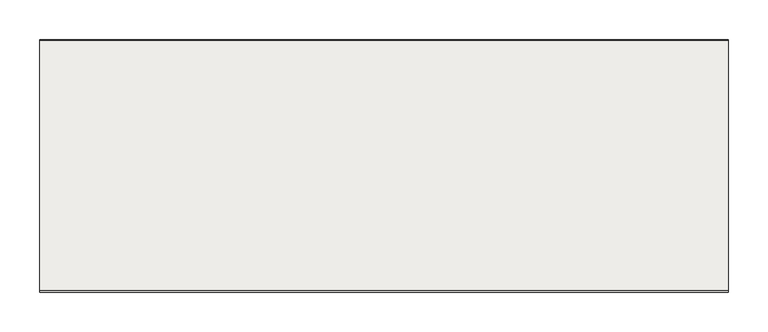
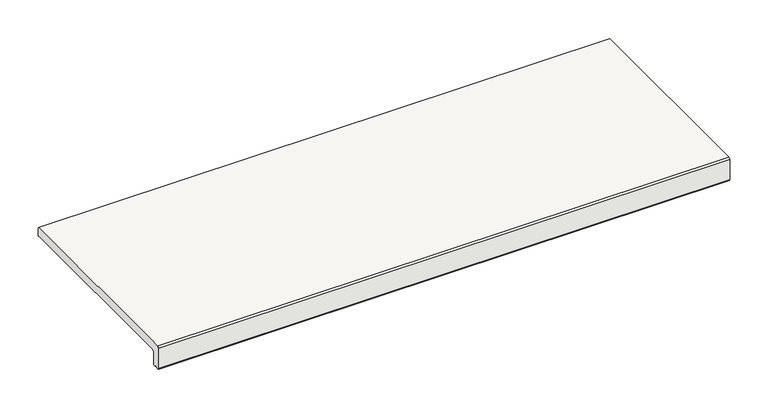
"""IFC4 building model written with IfcOpenShell, lengths in millimetres: slab geometry, ROSA GRES_L62 : Pieza L62_Tao_Beige_Anti-Slip."""

from ifc_helpers import new_model, si_unit, point, frame, frame_2d, origin, place, context, project, spatial, polyline, circle_curve, trimmed, segment, composite_curve, outline, extrude, source, transform, mapped, element, save


def slab_fb81437d(model_context):
    return source(origin(), model_context, "Body", "SweptSolid", [
        extrude(outline(composite_curve([segment(polyline([(12.1001991, -37.0), (9.4054777, -37.0)]), True, "CONTINUOUS"), segment(trimmed(circle_curve(frame_2d((7.4142134, -37.0)), 1.9912643), [point((9.4054777, -37.0))], [point((5.422949, -37.0))], True, "CARTESIAN"), True, "CONTINUOUS"), segment(polyline([(5.422949, -37.0), (2.5, -37.0)]), True, "CONTINUOUS"), segment(trimmed(circle_curve(frame_2d((2.5, -34.5)), 2.5), [point((2.5, -37.0))], [point((0.0, -34.5))], False, "CARTESIAN"), True, "CONTINUOUS"), segment(polyline([(0.0, -34.5), (0.0, -2.5), (2.5, 0.0), (315.5, 0.0), (317.0, -2.5), (317.0, -12.4648352)]), True, "CONTINUOUS"), segment(trimmed(circle_curve(frame_2d((315.5234432, -12.4648352)), 1.4765568), [point((317.0, -12.4648352))], [point((315.5234432, -13.9413919))], False, "CARTESIAN"), True, "CONTINUOUS"), segment(polyline([(315.5234432, -13.9413919), (16.6422322, -13.9413919)]), True, "CONTINUOUS"), segment(trimmed(circle_curve(frame_2d((16.6422322, -16.5836242)), 2.6422322), [point((16.6422322, -13.9413919))], [point((14.0, -16.5836242))], True, "CARTESIAN"), True, "CONTINUOUS"), segment(polyline([(14.0, -16.5836242), (14.0, -35.1001991)]), True, "CONTINUOUS"), segment(trimmed(circle_curve(frame_2d((12.1001991, -35.1001991)), 1.8998009), [point((14.0, -35.1001991))], [point((12.1001991, -37.0))], False, "CARTESIAN"), True, "CONTINUOUS")], self_intersect=False)), frame((0.0, 0.0, 0.0), z_axis=(1.0, 0.0, 0.0), x_axis=(0.0, 1.0, 0.0)), (0.0, 0.0, 1.0), 865.0),
    ])


if __name__ == "__main__":
    model = new_model("IFC4")
    model_context = context("Model", 3, world=origin())
    ifc_project = project(units=[si_unit("LENGTHUNIT", "METRE", prefix="MILLI")], contexts=[model_context])
    site = spatial("IfcSite", under=ifc_project)
    building = spatial("IfcBuilding", under=site)
    placement = place(None, origin())
    slab_shape = slab_fb81437d(model_context)
    element("IfcSlab", 1, ObjectType="ROSA GRES_L62 : Pieza L62_Tao_Beige_Anti-Slip", at=placement, inside=building, context=model_context, shape_type="MappedRepresentation", body=[
        mapped(slab_shape, transform((0.0, 0.0, 0.0), x_axis=(1.0, 0.0, 0.0), y_axis=(0.0, 1.0, 0.0), z_axis=(0.0, 0.0, 1.0))),
    ])
    save(model, "model.ifc")
